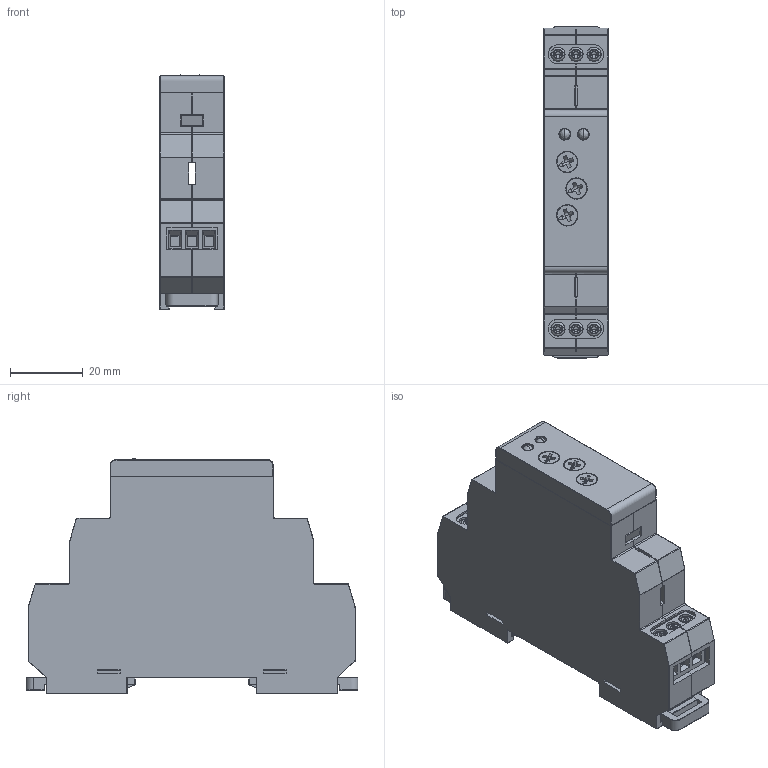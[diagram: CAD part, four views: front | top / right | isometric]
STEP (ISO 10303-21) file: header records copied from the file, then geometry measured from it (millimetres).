
FILE_DESCRIPTION(/* description */ (''),/* implementation_level */ '2;1');
FILE_NAME(/* name */ 'TE-8812U',/* time_stamp */ '2019-06-05T09:15:36+02:00',/* author */ (''),/* organization */ (''),/* preprocessor_version */ 'ST-DEVELOPER v15',/* originating_system */ '',/* authorisation */ '');
FILE_SCHEMA (('AUTOMOTIVE_DESIGN'));
Length unit declared in the file: millimetre
Products named in the file (1): Document
Bounding box: 17.6 x 91.27 x 64.51 mm (x, y, z)
Volume: 451.7 mm3; surface area: 33167.4 mm2
Topology: 7 solids, 37 shells, 1731 faces, 4569 edges, 2717 vertices
Faces by surface type: bspline 955, plane 776
Entity records: 73945 total; most frequent: CARTESIAN_POINT 48351, ORIENTED_EDGE 8635, EDGE_CURVE 4543, VERTEX_POINT 2717, B_SPLINE_CURVE_WITH_KNOTS 1954, EDGE_LOOP 1768, ADVANCED_FACE 1731, FACE_OUTER_BOUND 1731
